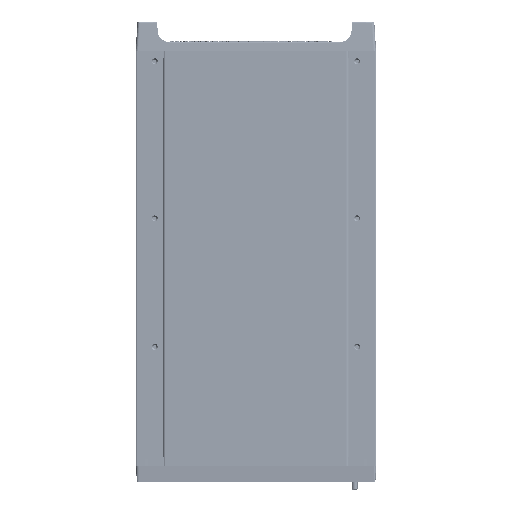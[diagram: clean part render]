
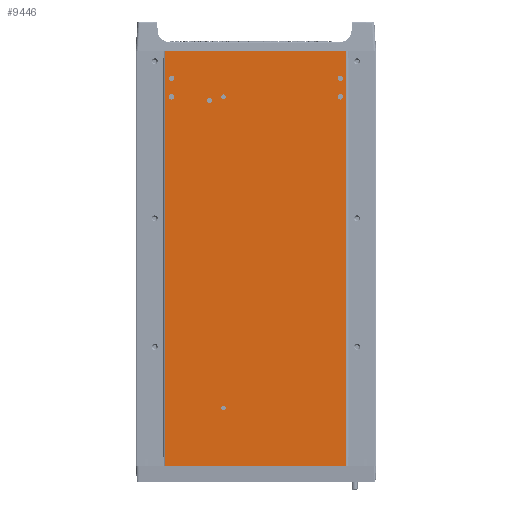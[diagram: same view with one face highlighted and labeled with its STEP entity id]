
A CAD part, front view. The second image highlights one B-rep face of the part: STEP entity #9446.
In plain terms, the highlighted planar face has unit normal (0, -1, 0).
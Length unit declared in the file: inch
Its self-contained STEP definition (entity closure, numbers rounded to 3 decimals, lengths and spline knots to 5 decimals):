
#3629=DIRECTION('',(0.,0.,1.));
#3630=VECTOR('',#3629,14.55);
#3631=CARTESIAN_POINT('',(-3.173,0.,-14.57));
#3632=LINE('',#3631,#3630);
#3644=DIRECTION('',(-1.,0.,0.));
#3645=VECTOR('',#3644,6.346);
#3646=CARTESIAN_POINT('',(3.173,0.,-14.57));
#3647=LINE('',#3646,#3645);
#3651=DIRECTION('',(-1.,0.,0.));
#3652=VECTOR('',#3651,6.346);
#3653=CARTESIAN_POINT('',(3.173,0.,-0.02));
#3654=LINE('',#3653,#3652);
#3658=CARTESIAN_POINT('',(-2.955,0.,-0.99));
#3659=DIRECTION('',(0.,1.,0.));
#3660=DIRECTION('',(1.,0.,0.));
#3661=AXIS2_PLACEMENT_3D('',#3658,#3659,#3660);
#3666=CARTESIAN_POINT('',(-2.955,0.,-0.99));
#3667=DIRECTION('',(0.,1.,0.));
#3668=DIRECTION('',(-1.,0.,0.));
#3669=AXIS2_PLACEMENT_3D('',#3666,#3667,#3668);
#3674=CARTESIAN_POINT('',(2.955,0.,-0.99));
#3675=DIRECTION('',(0.,1.,0.));
#3676=DIRECTION('',(1.,0.,0.));
#3677=AXIS2_PLACEMENT_3D('',#3674,#3675,#3676);
#3682=CARTESIAN_POINT('',(2.955,0.,-0.99));
#3683=DIRECTION('',(0.,1.,0.));
#3684=DIRECTION('',(-1.,0.,0.));
#3685=AXIS2_PLACEMENT_3D('',#3682,#3683,#3684);
#3690=CARTESIAN_POINT('',(-2.955,0.,-1.64));
#3691=DIRECTION('',(0.,1.,0.));
#3692=DIRECTION('',(1.,0.,0.));
#3693=AXIS2_PLACEMENT_3D('',#3690,#3691,#3692);
#3698=CARTESIAN_POINT('',(-2.955,0.,-1.64));
#3699=DIRECTION('',(0.,1.,0.));
#3700=DIRECTION('',(-1.,0.,0.));
#3701=AXIS2_PLACEMENT_3D('',#3698,#3699,#3700);
#3706=CARTESIAN_POINT('',(2.955,0.,-1.64));
#3707=DIRECTION('',(0.,1.,0.));
#3708=DIRECTION('',(1.,0.,0.));
#3709=AXIS2_PLACEMENT_3D('',#3706,#3707,#3708);
#3714=CARTESIAN_POINT('',(2.955,0.,-1.64));
#3715=DIRECTION('',(0.,1.,0.));
#3716=DIRECTION('',(-1.,0.,0.));
#3717=AXIS2_PLACEMENT_3D('',#3714,#3715,#3716);
#3722=CARTESIAN_POINT('',(-1.135,0.,-1.64));
#3723=DIRECTION('',(0.,1.,0.));
#3724=DIRECTION('',(1.,0.,0.));
#3725=AXIS2_PLACEMENT_3D('',#3722,#3723,#3724);
#3730=CARTESIAN_POINT('',(-1.135,0.,-1.64));
#3731=DIRECTION('',(0.,1.,0.));
#3732=DIRECTION('',(-1.,0.,0.));
#3733=AXIS2_PLACEMENT_3D('',#3730,#3731,#3732);
#3738=CARTESIAN_POINT('',(-1.135,0.,-12.54));
#3739=DIRECTION('',(0.,1.,0.));
#3740=DIRECTION('',(1.,0.,0.));
#3741=AXIS2_PLACEMENT_3D('',#3738,#3739,#3740);
#3746=CARTESIAN_POINT('',(-1.135,0.,-12.54));
#3747=DIRECTION('',(0.,1.,0.));
#3748=DIRECTION('',(-1.,0.,0.));
#3749=AXIS2_PLACEMENT_3D('',#3746,#3747,#3748);
#3754=CARTESIAN_POINT('',(-1.625,0.,-1.77));
#3755=DIRECTION('',(0.,1.,0.));
#3756=DIRECTION('',(1.,0.,0.));
#3757=AXIS2_PLACEMENT_3D('',#3754,#3755,#3756);
#3762=CARTESIAN_POINT('',(-1.625,0.,-1.77));
#3763=DIRECTION('',(0.,1.,0.));
#3764=DIRECTION('',(-1.,0.,0.));
#3765=AXIS2_PLACEMENT_3D('',#3762,#3763,#3764);
#3770=DIRECTION('',(0.,0.,1.));
#3771=VECTOR('',#3770,14.55);
#3772=CARTESIAN_POINT('',(3.173,0.,-14.57));
#3773=LINE('',#3772,#3771);
#5830=CARTESIAN_POINT('',(3.173,0.,-14.57));
#5831=CARTESIAN_POINT('',(3.173,0.,-0.02));
#5832=VERTEX_POINT('',#5830);
#5833=VERTEX_POINT('',#5831);
#5842=CARTESIAN_POINT('',(-3.173,0.,-14.57));
#5844=VERTEX_POINT('',#5842);
#5852=CARTESIAN_POINT('',(-3.173,0.,-0.02));
#5853=VERTEX_POINT('',#5852);
#5994=CARTESIAN_POINT('',(-2.8615,0.,-0.99));
#5995=CARTESIAN_POINT('',(-3.0485,0.,-0.99));
#5996=VERTEX_POINT('',#5994);
#5997=VERTEX_POINT('',#5995);
#5998=CARTESIAN_POINT('',(3.0485,0.,-0.99));
#5999=CARTESIAN_POINT('',(2.8615,0.,-0.99));
#6000=VERTEX_POINT('',#5998);
#6001=VERTEX_POINT('',#5999);
#6002=CARTESIAN_POINT('',(-2.8585,0.,-1.64));
#6003=CARTESIAN_POINT('',(-3.0515,0.,-1.64));
#6004=VERTEX_POINT('',#6002);
#6005=VERTEX_POINT('',#6003);
#6006=CARTESIAN_POINT('',(3.0515,0.,-1.64));
#6007=CARTESIAN_POINT('',(2.8585,0.,-1.64));
#6008=VERTEX_POINT('',#6006);
#6009=VERTEX_POINT('',#6007);
#6018=CARTESIAN_POINT('',(-1.052,0.,-1.64));
#6019=CARTESIAN_POINT('',(-1.218,0.,-1.64));
#6020=VERTEX_POINT('',#6018);
#6021=VERTEX_POINT('',#6019);
#6022=CARTESIAN_POINT('',(-1.052,0.,-12.54));
#6023=CARTESIAN_POINT('',(-1.218,0.,-12.54));
#6024=VERTEX_POINT('',#6022);
#6025=VERTEX_POINT('',#6023);
#6530=CARTESIAN_POINT('',(-1.542,0.,-1.77));
#6531=CARTESIAN_POINT('',(-1.708,0.,-1.77));
#6532=VERTEX_POINT('',#6530);
#6533=VERTEX_POINT('',#6531);
#9391=CARTESIAN_POINT('',(3.235,0.,0.));
#9392=DIRECTION('',(0.,-1.,0.));
#9393=DIRECTION('',(-1.,0.,0.));
#9394=AXIS2_PLACEMENT_3D('',#9391,#9392,#9393);
#9395=PLANE('',#9394);
#9397=ORIENTED_EDGE('',*,*,#9396,.F.);
#9398=ORIENTED_EDGE('',*,*,#9382,.T.);
#9399=ORIENTED_EDGE('',*,*,#9371,.T.);
#9401=ORIENTED_EDGE('',*,*,#9400,.F.);
#9402=EDGE_LOOP('',(#9397,#9398,#9399,#9401));
#9403=FACE_OUTER_BOUND('',#9402,.F.);
#9405=ORIENTED_EDGE('',*,*,#9404,.F.);
#9407=ORIENTED_EDGE('',*,*,#9406,.F.);
#9408=EDGE_LOOP('',(#9405,#9407));
#9409=FACE_BOUND('',#9408,.F.);
#9411=ORIENTED_EDGE('',*,*,#9410,.F.);
#9413=ORIENTED_EDGE('',*,*,#9412,.F.);
#9414=EDGE_LOOP('',(#9411,#9413));
#9415=FACE_BOUND('',#9414,.F.);
#9417=ORIENTED_EDGE('',*,*,#9416,.F.);
#9419=ORIENTED_EDGE('',*,*,#9418,.F.);
#9420=EDGE_LOOP('',(#9417,#9419));
#9421=FACE_BOUND('',#9420,.F.);
#9423=ORIENTED_EDGE('',*,*,#9422,.F.);
#9425=ORIENTED_EDGE('',*,*,#9424,.F.);
#9426=EDGE_LOOP('',(#9423,#9425));
#9427=FACE_BOUND('',#9426,.F.);
#9429=ORIENTED_EDGE('',*,*,#9428,.F.);
#9431=ORIENTED_EDGE('',*,*,#9430,.F.);
#9432=EDGE_LOOP('',(#9429,#9431));
#9433=FACE_BOUND('',#9432,.F.);
#9435=ORIENTED_EDGE('',*,*,#9434,.F.);
#9437=ORIENTED_EDGE('',*,*,#9436,.F.);
#9438=EDGE_LOOP('',(#9435,#9437));
#9439=FACE_BOUND('',#9438,.F.);
#9441=ORIENTED_EDGE('',*,*,#9440,.F.);
#9443=ORIENTED_EDGE('',*,*,#9442,.F.);
#9444=EDGE_LOOP('',(#9441,#9443));
#9445=FACE_BOUND('',#9444,.F.);
#3662=CIRCLE('',#3661,0.0935);
#3670=CIRCLE('',#3669,0.0935);
#3678=CIRCLE('',#3677,0.0935);
#3686=CIRCLE('',#3685,0.0935);
#3694=CIRCLE('',#3693,0.0965);
#3702=CIRCLE('',#3701,0.0965);
#3710=CIRCLE('',#3709,0.0965);
#3718=CIRCLE('',#3717,0.0965);
#3726=CIRCLE('',#3725,0.083);
#3734=CIRCLE('',#3733,0.083);
#3742=CIRCLE('',#3741,0.083);
#3750=CIRCLE('',#3749,0.083);
#3758=CIRCLE('',#3757,0.083);
#3766=CIRCLE('',#3765,0.083);
#9371=EDGE_CURVE('',#5844,#5853,#3632,.T.);
#9382=EDGE_CURVE('',#5832,#5844,#3647,.T.);
#9396=EDGE_CURVE('',#5832,#5833,#3773,.T.);
#9400=EDGE_CURVE('',#5833,#5853,#3654,.T.);
#9404=EDGE_CURVE('',#5996,#5997,#3662,.T.);
#9406=EDGE_CURVE('',#5997,#5996,#3670,.T.);
#9410=EDGE_CURVE('',#6000,#6001,#3678,.T.);
#9412=EDGE_CURVE('',#6001,#6000,#3686,.T.);
#9416=EDGE_CURVE('',#6004,#6005,#3694,.T.);
#9418=EDGE_CURVE('',#6005,#6004,#3702,.T.);
#9422=EDGE_CURVE('',#6008,#6009,#3710,.T.);
#9424=EDGE_CURVE('',#6009,#6008,#3718,.T.);
#9428=EDGE_CURVE('',#6020,#6021,#3726,.T.);
#9430=EDGE_CURVE('',#6021,#6020,#3734,.T.);
#9434=EDGE_CURVE('',#6024,#6025,#3742,.T.);
#9436=EDGE_CURVE('',#6025,#6024,#3750,.T.);
#9440=EDGE_CURVE('',#6532,#6533,#3758,.T.);
#9442=EDGE_CURVE('',#6533,#6532,#3766,.T.);
#9446=ADVANCED_FACE('',(#9403,#9409,#9415,#9421,#9427,#9433,#9439,#9445),#9395,
.T.);
